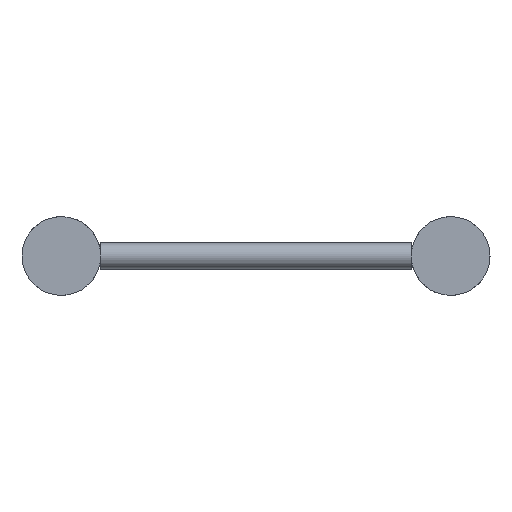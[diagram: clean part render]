
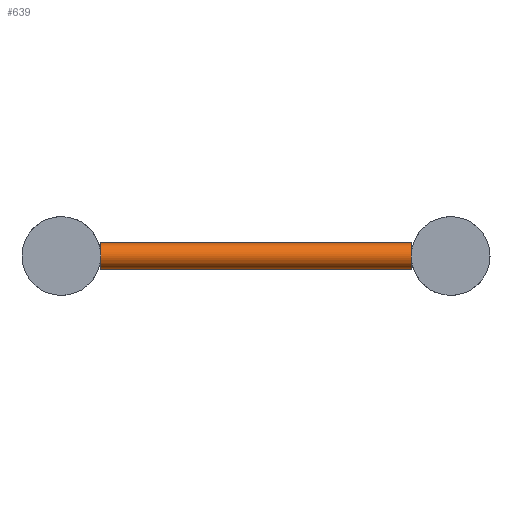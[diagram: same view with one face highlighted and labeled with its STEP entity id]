
A CAD part, left-side view. The second image highlights one B-rep face of the part: STEP entity #639.
In plain terms, the highlighted cylindrical face has radius 8 mm (diameter 16 mm), a full revolution.
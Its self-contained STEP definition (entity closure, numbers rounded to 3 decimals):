
#83=FACE_BOUND('',#195,.T.);
#136=FACE_OUTER_BOUND('',#194,.T.);
#194=EDGE_LOOP('',(#451,#452));
#195=EDGE_LOOP('',(#453,#454));
#279=CIRCLE('',#706,8.);
#280=CIRCLE('',#708,8.);
#281=CIRCLE('',#710,8.);
#282=CIRCLE('',#712,8.);
#315=VERTEX_POINT('',#1001);
#316=VERTEX_POINT('',#1002);
#317=VERTEX_POINT('',#1006);
#318=VERTEX_POINT('',#1007);
#374=EDGE_CURVE('',#316,#315,#279,.T.);
#376=EDGE_CURVE('',#318,#317,#280,.T.);
#377=EDGE_CURVE('',#315,#316,#281,.T.);
#378=EDGE_CURVE('',#317,#318,#282,.T.);
#451=ORIENTED_EDGE('',*,*,#374,.T.);
#452=ORIENTED_EDGE('',*,*,#377,.T.);
#453=ORIENTED_EDGE('',*,*,#376,.T.);
#454=ORIENTED_EDGE('',*,*,#378,.T.);
#553=CYLINDRICAL_SURFACE('',#711,8.);
#639=ADVANCED_FACE('',(#136,#83),#553,.T.);
#706=AXIS2_PLACEMENT_3D('',#1004,#826,#827);
#708=AXIS2_PLACEMENT_3D('',#1009,#831,#832);
#710=AXIS2_PLACEMENT_3D('',#1011,#835,#836);
#711=AXIS2_PLACEMENT_3D('',#1012,#837,#838);
#712=AXIS2_PLACEMENT_3D('',#1013,#839,#840);
#826=DIRECTION('center_axis',(0.,1.,0.));
#827=DIRECTION('ref_axis',(-1.,0.,0.));
#831=DIRECTION('center_axis',(0.,-1.,0.));
#832=DIRECTION('ref_axis',(-1.,0.,0.));
#835=DIRECTION('center_axis',(0.,1.,0.));
#836=DIRECTION('ref_axis',(-1.,0.,0.));
#837=DIRECTION('center_axis',(0.,1.,0.));
#838=DIRECTION('ref_axis',(-1.,0.,0.));
#839=DIRECTION('center_axis',(0.,-1.,0.));
#840=DIRECTION('ref_axis',(-1.,0.,0.));
#1001=CARTESIAN_POINT('',(52.,24.15,0.));
#1002=CARTESIAN_POINT('',(68.,24.15,0.));
#1004=CARTESIAN_POINT('Origin',(60.,24.15,0.));
#1006=CARTESIAN_POINT('',(52.,214.85,0.));
#1007=CARTESIAN_POINT('',(68.,214.85,0.));
#1009=CARTESIAN_POINT('Origin',(60.,214.85,0.));
#1011=CARTESIAN_POINT('Origin',(60.,24.15,0.));
#1012=CARTESIAN_POINT('Origin',(60.,119.5,0.));
#1013=CARTESIAN_POINT('Origin',(60.,214.85,0.));
